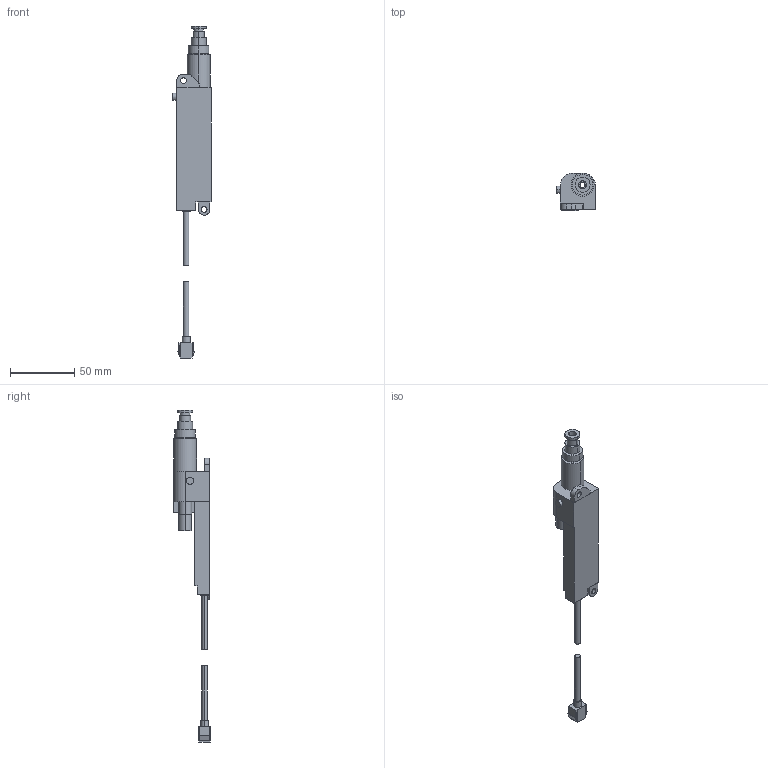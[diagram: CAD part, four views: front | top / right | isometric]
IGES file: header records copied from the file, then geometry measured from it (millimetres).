
Start section: SolidWorks IGES FILE using analytic representation for surfaces
Global section: file name: \\intra-srv04\開発データ\CAD_Data\CAD委員会\3D電子ｶﾀﾛｸﾞ\製品カタログ（新）\0_IGES\ER-VS01(+ER-VAJT-64).IGS; native system: SolidWorks 2004 by SolidWorks Corporation; preprocessor: Version 5.3; author: mf1158; date: 050906.113937; units: millimetre
Bounding box: 29.8 x 28.6 x 257.5 mm (x, y, z)
Volume: 51152.9 mm3; surface area: 18723.8 mm2
Topology: 3 solids, 3 shells, 169 faces, 409 edges, 271 vertices
Faces by surface type: plane 96, revolution 73
